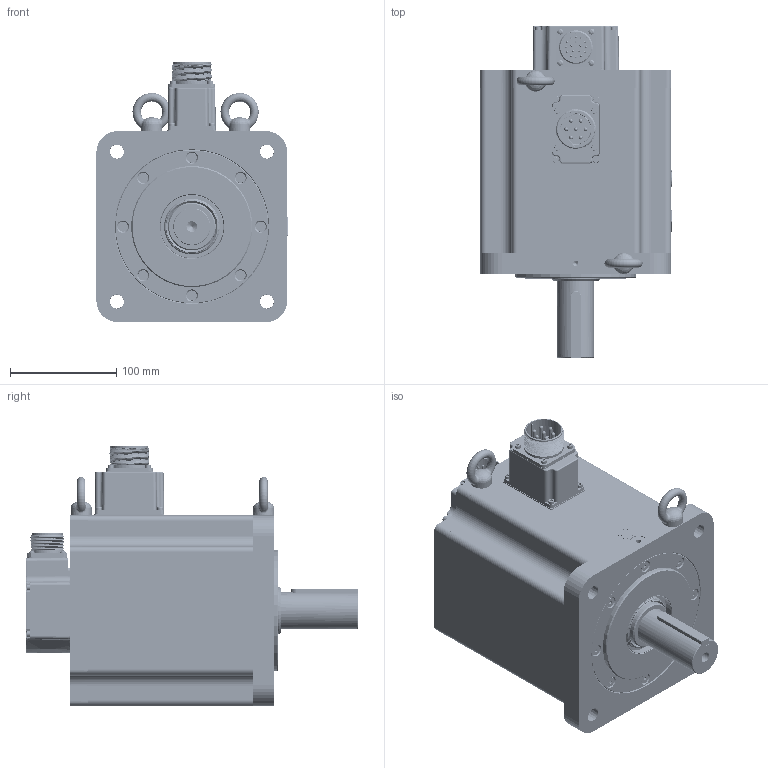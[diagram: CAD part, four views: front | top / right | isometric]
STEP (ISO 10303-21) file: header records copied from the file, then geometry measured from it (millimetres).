
FILE_DESCRIPTION( ( 'Unknown' ), '1' );
FILE_NAME( 'X:/05_Progetto TCE/010-TCE motor drawings/TCE180/vuoti/TCE180 6E XX 3 A2 0 C3.stp', 'Unknown', ( 'Unknown' ), ( 'Unknown' ), 'PSStep 17.0.49', 'Unknown', ' ' );
FILE_SCHEMA( ( 'AUTOMOTIVE_DESIGN { 1 0 10303 214 1 1 1 1 }' ) );
Length unit declared in the file: millimetre
Products named in the file (53): back cover TCE100 + CN MIL; 003303000373; 003108015154; 005911000525; 005911000525-oa3; 005911000525-oa4; 005911000525-oa5; 001107000620; U5180003_vuoto; 003799000581; 003303000372; 003303000370; 003120002508; cap-M3 nudo; 007117001752; 005911000190; 005911000201; Assem1; 005204000001; 005204000003; 005204000002; 005113001070; 005119001104; 005123001110; 005911000216; 005911000006; 005008000664-oa0; 005008000690-oa1; 005008000953-oa2; 005911000493; 003103001503; 005123001580; 003251022004; 005911000479; 005321000010; 003251022003; 003003050008
Assembly tree (80 placements, depth 3):
  Assem1
    005204000001
    005204000003
    005204000002
    005113001070
    005119001104
    005119001104
    005123001110
    005123001110
    005123001110
    005123001110
    005123001110
    005123001110
    005123001110
    005123001110
    005911000216  x4
    005911000006  x8
    005008000664-oa0
    005008000690-oa1
    005008000953-oa2
    005911000493  x4
    003103001503
    005123001580
    005123001580
    005123001580
    005123001580
    005123001580
    005123001580
    005123001580
    005123001580
    003251022004
    005911000479  x8
    005321000010  x2
    003251022003
    003003050008
    back cover TCE100 + CN MIL
      003303000373
      003108015154
      005911000525
      005911000525-oa3
      005911000525-oa4
      005911000525-oa5
      001107000620
    U5180003_vuoto
      003799000581
      003303000372
      003303000370
      003120002508
      003120002508
      cap-M3 nudo
      007117001752
      005911000190
      005911000201  x8
Bounding box: 180.3 x 313 x 245.3 mm (x, y, z)
Volume: 2932066.3 mm3; surface area: 686943.6 mm2
Topology: 78 solids, 85 shells, 2806 faces, 6885 edges, 4410 vertices
Faces by surface type: plane 1363, cylinder 689, cone 221, bspline 186, torus 175, extrusion 88, sphere 82, revolution 2
Full cylindrical faces by diameter (mm): 1.423 x1, 1.523 x1, 2 x34, 2.163 x1, 2.459 x21, 2.5 x1, 2.6 x1, 2.9 x4, 3 x30, 3.048 x4, 3.2 x1, 3.242 x6, 3.5 x11, 3.6 x7, 3.7 x4, 4 x9, 4.134 x24, 4.4 x15, 4.7 x8, 4.917 x2, 5 x16, 5.3 x1, 5.5 x14, 5.6 x4, 6 x7, 6.6 x6, 6.647 x22, 7 x8, 7.2 x1, 8 x17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
Entity records: 115669 total; most frequent: CARTESIAN_POINT 44035, DIRECTION 10570, ORIENTED_EDGE 10154, EDGE_CURVE 5077, AXIS2_PLACEMENT_3D 3942, VERTEX_POINT 3634, EDGE_LOOP 3296, FACE_OUTER_BOUND 2761
